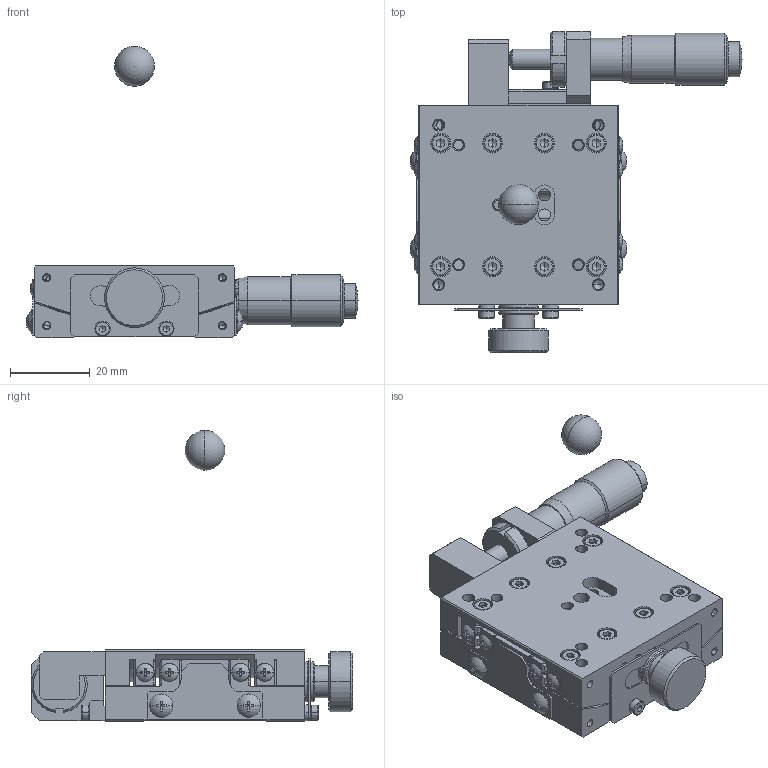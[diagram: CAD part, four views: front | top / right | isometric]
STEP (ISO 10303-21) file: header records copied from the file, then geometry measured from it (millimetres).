
FILE_DESCRIPTION (( 'STEP AP214' ), '1' );
FILE_NAME ('ST05A-S1T-R.STEP', '2007-01-19T00:22:14', ( ' ' ), ( ' ' ), 'SwSTEP 2.0', 'SolidWorks 2006052', '' );
FILE_SCHEMA (( 'AUTOMOTIVE_DESIGN' ));
Length unit declared in the file: millimetre
Products named in the file (5): 002560-1020(3D)-1; ST05A-S1T-R-Part-1; 002560-1010(3D)-1; MICROMETERHEAD(MHS4-13)spindle-1; ST05A-S1T-R
Assembly tree (4 placements, depth 2):
  ST05A-S1T-R
    002560-1010(3D)-1
    ST05A-S1T-R-Part-1
    MICROMETERHEAD(MHS4-13)spindle-1
    002560-1020(3D)-1
Bounding box: 83.18 x 80.5 x 73 mm (x, y, z)
Volume: 47044.6 mm3; surface area: 33314.7 mm2
Topology: 4 solids, 38 shells, 1790 faces, 4347 edges, 2598 vertices
Faces by surface type: plane 774, cylinder 581, cone 337, torus 68, sphere 30
Entity records: 55119 total; most frequent: CARTESIAN_POINT 13079, DIRECTION 9114, ORIENTED_EDGE 8476, EDGE_CURVE 4238, AXIS2_PLACEMENT_3D 3519, VERTEX_POINT 2595, VECTOR 2076, LINE 2076
